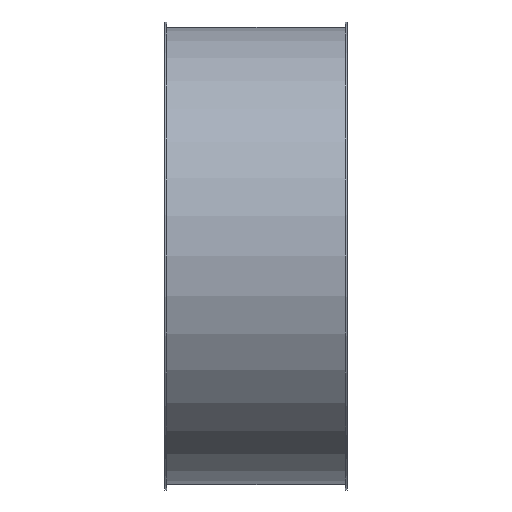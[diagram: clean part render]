
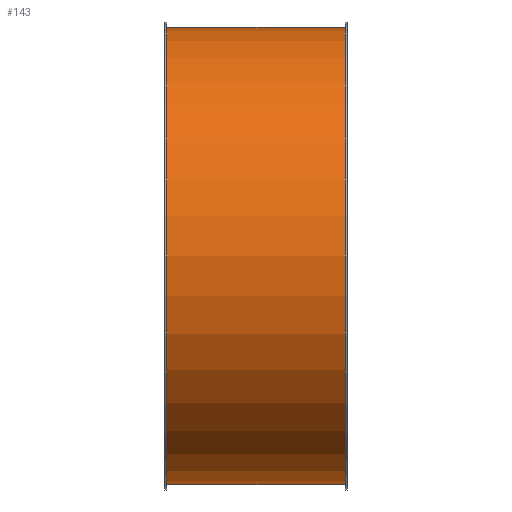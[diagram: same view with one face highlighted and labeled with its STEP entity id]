
A CAD part, front view. The second image highlights one B-rep face of the part: STEP entity #143.
In plain terms, the highlighted cylindrical face has radius 251 mm (diameter 502 mm), a full revolution.
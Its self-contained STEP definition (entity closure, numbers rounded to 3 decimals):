
#112=CARTESIAN_POINT('',(166.119,2.817,0.0));
#113=VERTEX_POINT('',#112);
#114=CARTESIAN_POINT('',(166.119,253.817,0.0));
#115=DIRECTION('',(-1.0,0.0,0.0));
#116=DIRECTION('',(0.0,-1.0,0.0));
#117=AXIS2_PLACEMENT_3D('',#114,#115,#116);
#118=CIRCLE('',#117,251.0);
#119=EDGE_CURVE('',#113,#113,#118,.T.);
#124=CARTESIAN_POINT('',(68.119,253.817,0.0));
#125=DIRECTION('',(-1.0,0.0,0.0));
#126=DIRECTION('',(0.0,-1.0,0.0));
#127=AXIS2_PLACEMENT_3D('',#124,#125,#126);
#128=CYLINDRICAL_SURFACE('',#127,251.0);
#129=CARTESIAN_POINT('',(-29.881,2.817,0.0));
#130=VERTEX_POINT('',#129);
#131=CARTESIAN_POINT('',(-29.881,253.817,0.0));
#132=DIRECTION('',(-1.0,0.0,0.0));
#133=DIRECTION('',(0.0,-1.0,0.0));
#134=AXIS2_PLACEMENT_3D('',#131,#132,#133);
#135=CIRCLE('',#134,251.0);
#136=EDGE_CURVE('',#130,#130,#135,.T.);
#137=ORIENTED_EDGE('',*,*,#136,.F.);
#138=EDGE_LOOP('',(#137));
#139=FACE_OUTER_BOUND('',#138,.T.);
#140=ORIENTED_EDGE('',*,*,#119,.T.);
#141=EDGE_LOOP('',(#140));
#142=FACE_BOUND('',#141,.T.);
#143=ADVANCED_FACE('',(#139,#142),#128,.T.);
